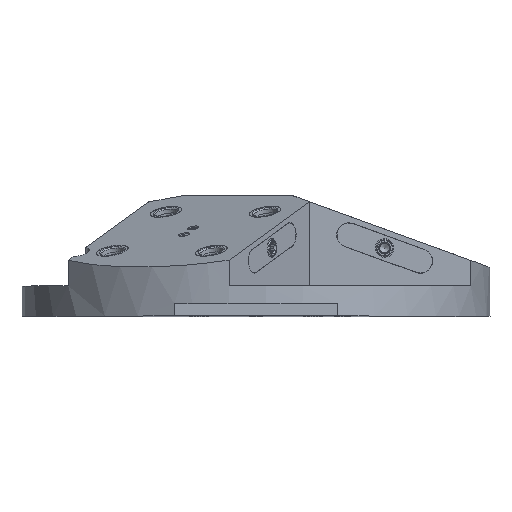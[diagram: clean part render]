
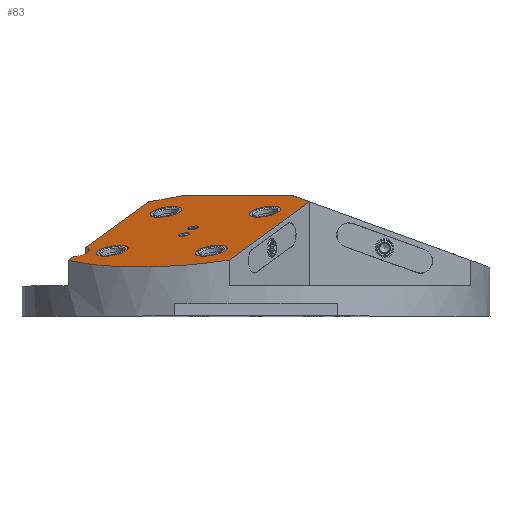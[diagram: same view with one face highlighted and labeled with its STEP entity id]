
A CAD part, top view. The second image highlights one B-rep face of the part: STEP entity #83.
In plain terms, the highlighted planar face has unit normal (-0.171, 0.94, 0.296) as drawn and (0.296, 0.171, -0.94) by its records, which use the part's own axes.
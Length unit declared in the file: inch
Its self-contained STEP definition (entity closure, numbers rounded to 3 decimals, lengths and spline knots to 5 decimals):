
#83 = ADVANCED_FACE ( 'NONE', ( #13171, #3107, #11029, #8575, #107, #6550, #10744 ), #8857, .F. ) ;
#93 = DIRECTION ( 'NONE',  ( -0.5, 0.866, 0. ) ) ;
#107 = FACE_BOUND ( 'NONE', #7468, .T. ) ;
#110 = CARTESIAN_POINT ( 'NONE',  ( -0.51257, 3.25, -2. ) ) ;
#139 = VERTEX_POINT ( 'NONE', #12270 ) ;
#250 = DIRECTION ( 'NONE',  ( 0.296, 0.171, -0.94 ) ) ;
#285 = LINE ( 'NONE', #11132, #13277 ) ;
#493 = EDGE_LOOP ( 'NONE', ( #9254, #1875, #4128, #1014, #11102, #549, #2599, #13415 ) ) ;
#549 = ORIENTED_EDGE ( 'NONE', *, *, #7306, .F. ) ;
#620 = CARTESIAN_POINT ( 'NONE',  ( 7.43534, 3.04233, 0.46745 ) ) ;
#650 = AXIS2_PLACEMENT_3D ( 'NONE', #6270, #1689, #6058 ) ;
#929 = DIRECTION ( 'NONE',  ( 0.296, 0.171, -0.94 ) ) ;
#934 = VECTOR ( 'NONE', #2036, 39.37008 ) ;
#973 = VERTEX_POINT ( 'NONE', #14015 ) ;
#989 = VERTEX_POINT ( 'NONE', #12899 ) ;
#1005 = DIRECTION ( 'NONE',  ( -0.814, -0.47, -0.342 ) ) ;
#1014 = ORIENTED_EDGE ( 'NONE', *, *, #9968, .T. ) ;
#1141 = AXIS2_PLACEMENT_3D ( 'NONE', #12490, #2644, #7011 ) ;
#1204 = CIRCLE ( 'NONE', #11081, 0.1875 ) ;
#1215 = CARTESIAN_POINT ( 'NONE',  ( 0.94214, 2.72605, -1.63682 ) ) ;
#1458 = DIRECTION ( 'NONE',  ( -0.954, 0., -0.301 ) ) ;
#1559 = ORIENTED_EDGE ( 'NONE', *, *, #8815, .F. ) ;
#1689 = DIRECTION ( 'NONE',  ( 0.296, 0.171, -0.94 ) ) ;
#1833 = CARTESIAN_POINT ( 'NONE',  ( 6.35241, 4.91803, 0.46745 ) ) ;
#1875 = ORIENTED_EDGE ( 'NONE', *, *, #3903, .T. ) ;
#1902 = AXIS2_PLACEMENT_3D ( 'NONE', #6445, #929, #1005 ) ;
#1913 = CARTESIAN_POINT ( 'NONE',  ( 1.37447, 2.97566, -1.45512 ) ) ;
#2019 = CARTESIAN_POINT ( 'NONE',  ( 6.3068, -8.5615, -2. ) ) ;
#2036 = DIRECTION ( 'NONE',  ( 0.852, -0.492, 0.179 ) ) ;
#2124 = DIRECTION ( 'NONE',  ( -0.814, -0.47, -0.342 ) ) ;
#2399 = VERTEX_POINT ( 'NONE', #5275 ) ;
#2420 = CARTESIAN_POINT ( 'NONE',  ( 3.62099, 5.63651, -0.26276 ) ) ;
#2423 = EDGE_LOOP ( 'NONE', ( #12187 ) ) ;
#2513 = VERTEX_POINT ( 'NONE', #2420 ) ;
#2529 = CARTESIAN_POINT ( 'NONE',  ( 3.59275, 2.07427, -0.91994 ) ) ;
#2547 = VERTEX_POINT ( 'NONE', #12390 ) ;
#2571 = AXIS2_PLACEMENT_3D ( 'NONE', #1913, #4262, #2124 ) ;
#2599 = ORIENTED_EDGE ( 'NONE', *, *, #3715, .T. ) ;
#2643 = CARTESIAN_POINT ( 'NONE',  ( 2.04573, -1.1811, -2. ) ) ;
#2644 = DIRECTION ( 'NONE',  ( 0.296, 0.171, -0.94 ) ) ;
#2899 = CARTESIAN_POINT ( 'NONE',  ( 4.61389, 6.20976, 0.15453 ) ) ;
#2978 = CARTESIAN_POINT ( 'NONE',  ( 7.68476, 0.89086, 0.15453 ) ) ;
#3107 = FACE_BOUND ( 'NONE', #3683, .T. ) ;
#3180 = CARTESIAN_POINT ( 'NONE',  ( 6.3068, -8.5615, -2. ) ) ;
#3318 = DIRECTION ( 'NONE',  ( -0.296, -0.171, 0.94 ) ) ;
#3471 = EDGE_CURVE ( 'NONE', #973, #2513, #4540, .T. ) ;
#3496 = VERTEX_POINT ( 'NONE', #1215 ) ;
#3683 = EDGE_LOOP ( 'NONE', ( #13756 ) ) ;
#3715 = EDGE_CURVE ( 'NONE', #13058, #12845, #8562, .T. ) ;
#3726 = DIRECTION ( 'NONE',  ( -0.814, -0.47, -0.342 ) ) ;
#3807 = EDGE_CURVE ( 'NONE', #7439, #7439, #8860, .T. ) ;
#3903 = EDGE_CURVE ( 'NONE', #2513, #13234, #5520, .T. ) ;
#3934 = CIRCLE ( 'NONE', #2571, 0.53125 ) ;
#4128 = ORIENTED_EDGE ( 'NONE', *, *, #6452, .T. ) ;
#4262 = DIRECTION ( 'NONE',  ( 0.296, 0.171, -0.94 ) ) ;
#4516 =( BOUNDED_CURVE ( )  B_SPLINE_CURVE ( 3, ( #2899, #1833, #620, #2978 ),
 .UNSPECIFIED., .F., .T. ) 
 B_SPLINE_CURVE_WITH_KNOTS ( ( 4, 4 ),
 ( 5.875, 6.69137 ),
 .UNSPECIFIED. ) 
 CURVE ( )  GEOMETRIC_REPRESENTATION_ITEM ( )  RATIONAL_B_SPLINE_CURVE ( ( 1., 0.945, 0.945, 1. ) ) 
 REPRESENTATION_ITEM ( '' )  );
#4540 = LINE ( 'NONE', #110, #6312 ) ;
#4710 = VERTEX_POINT ( 'NONE', #8673 ) ;
#4805 = ORIENTED_EDGE ( 'NONE', *, *, #3807, .F. ) ;
#4855 = EDGE_CURVE ( 'NONE', #4710, #7583, #285, .T. ) ;
#5247 = LINE ( 'NONE', #6328, #934 ) ;
#5275 = CARTESIAN_POINT ( 'NONE',  ( 4.61389, 6.20976, 0.15453 ) ) ;
#5520 =( BOUNDED_CURVE ( )  B_SPLINE_CURVE ( 3, ( #8172, #6234, #5946, #10366 ),
 .UNSPECIFIED., .F., .T. ) 
 B_SPLINE_CURVE_WITH_KNOTS ( ( 4, 4 ),
 ( 0.18161, 2.95999 ),
 .UNSPECIFIED. ) 
 CURVE ( )  GEOMETRIC_REPRESENTATION_ITEM ( )  RATIONAL_B_SPLINE_CURVE ( ( 1., 0.454, 0.454, 1. ) ) 
 REPRESENTATION_ITEM ( '' )  );
#5538 = DIRECTION ( 'NONE',  ( 0.954, 0., 0.301 ) ) ;
#5638 = EDGE_CURVE ( 'NONE', #3496, #3496, #3934, .T. ) ;
#5731 = VECTOR ( 'NONE', #14173, 39.37008 ) ;
#5946 = CARTESIAN_POINT ( 'NONE',  ( 4.5291, 5.4797, -0.00506 ) ) ;
#6058 = DIRECTION ( 'NONE',  ( -0.814, -0.47, -0.342 ) ) ;
#6234 = CARTESIAN_POINT ( 'NONE',  ( 4.00973, 5.17984, -0.22334 ) ) ;
#6256 = EDGE_CURVE ( 'NONE', #139, #139, #1204, .T. ) ;
#6270 = CARTESIAN_POINT ( 'NONE',  ( 4.45024, 4.75146, -0.16244 ) ) ;
#6290 = CARTESIAN_POINT ( 'NONE',  ( 5.90767, 1.22868, -0.34414 ) ) ;
#6312 = VECTOR ( 'NONE', #13106, 39.37008 ) ;
#6328 = CARTESIAN_POINT ( 'NONE',  ( -5.05555, 2.91882, -3.49225 ) ) ;
#6445 = CARTESIAN_POINT ( 'NONE',  ( 3.26423, -0.29751, -1.45512 ) ) ;
#6452 = EDGE_CURVE ( 'NONE', #13234, #2399, #10874, .T. ) ;
#6550 = FACE_BOUND ( 'NONE', #8026, .T. ) ;
#7011 = DIRECTION ( 'NONE',  ( -0.954, 0., -0.301 ) ) ;
#7191 = EDGE_LOOP ( 'NONE', ( #1559 ) ) ;
#7306 = EDGE_CURVE ( 'NONE', #13058, #4710, #5247, .T. ) ;
#7439 = VERTEX_POINT ( 'NONE', #6290 ) ;
#7468 = EDGE_LOOP ( 'NONE', ( #4805 ) ) ;
#7583 = VERTEX_POINT ( 'NONE', #8121 ) ;
#7882 = DIRECTION ( 'NONE',  ( 0., -0.984, -0.179 ) ) ;
#8018 = LINE ( 'NONE', #12406, #9664 ) ;
#8026 = EDGE_LOOP ( 'NONE', ( #12411 ) ) ;
#8029 = EDGE_CURVE ( 'NONE', #973, #12845, #8018, .T. ) ;
#8076 = EDGE_LOOP ( 'NONE', ( #10697 ) ) ;
#8121 = CARTESIAN_POINT ( 'NONE',  ( 7.68476, 0.89086, 0.15453 ) ) ;
#8172 = CARTESIAN_POINT ( 'NONE',  ( 3.62099, 5.63651, -0.26276 ) ) ;
#8203 = CIRCLE ( 'NONE', #650, 0.53125 ) ;
#8233 = CIRCLE ( 'NONE', #1141, 0.1875 ) ;
#8316 = CARTESIAN_POINT ( 'NONE',  ( 6.34, 1.47829, -0.16244 ) ) ;
#8381 = AXIS2_PLACEMENT_3D ( 'NONE', #8316, #9415, #3726 ) ;
#8562 = LINE ( 'NONE', #2019, #11612 ) ;
#8575 = FACE_BOUND ( 'NONE', #8076, .T. ) ;
#8673 = CARTESIAN_POINT ( 'NONE',  ( 3.07087, -1.77297, -1.78458 ) ) ;
#8793 = CARTESIAN_POINT ( 'NONE',  ( 0., 2.3622, -2. ) ) ;
#8815 = EDGE_CURVE ( 'NONE', #989, #989, #14071, .T. ) ;
#8857 = PLANE ( 'NONE',  #11287 ) ;
#8860 = CIRCLE ( 'NONE', #8381, 0.53125 ) ;
#9254 = ORIENTED_EDGE ( 'NONE', *, *, #3471, .T. ) ;
#9415 = DIRECTION ( 'NONE',  ( 0.296, 0.171, -0.94 ) ) ;
#9559 = CARTESIAN_POINT ( 'NONE',  ( -0.51257, 3.25, -2. ) ) ;
#9664 = VECTOR ( 'NONE', #7882, 39.37008 ) ;
#9777 = CARTESIAN_POINT ( 'NONE',  ( 4.32797, 6.04469, 0.03437 ) ) ;
#9968 = EDGE_CURVE ( 'NONE', #2399, #7583, #4516, .T. ) ;
#10104 = CARTESIAN_POINT ( 'NONE',  ( 4.01791, 4.50185, -0.34414 ) ) ;
#10366 = CARTESIAN_POINT ( 'NONE',  ( 4.32797, 6.04469, 0.03437 ) ) ;
#10697 = ORIENTED_EDGE ( 'NONE', *, *, #5638, .F. ) ;
#10744 = FACE_OUTER_BOUND ( 'NONE', #493, .T. ) ;
#10874 = LINE ( 'NONE', #9559, #5731 ) ;
#11029 = FACE_BOUND ( 'NONE', #7191, .T. ) ;
#11081 = AXIS2_PLACEMENT_3D ( 'NONE', #2529, #250, #1458 ) ;
#11102 = ORIENTED_EDGE ( 'NONE', *, *, #4855, .F. ) ;
#11132 = CARTESIAN_POINT ( 'NONE',  ( 3.84591, -1.32549, -1.45885 ) ) ;
#11148 = EDGE_CURVE ( 'NONE', #13117, #13117, #8203, .T. ) ;
#11287 = AXIS2_PLACEMENT_3D ( 'NONE', #3180, #3318, #5538 ) ;
#11612 = VECTOR ( 'NONE', #93, 39.37008 ) ;
#12187 = ORIENTED_EDGE ( 'NONE', *, *, #6256, .F. ) ;
#12270 = CARTESIAN_POINT ( 'NONE',  ( 3.41392, 2.07427, -0.97631 ) ) ;
#12332 = DIRECTION ( 'NONE',  ( 0.814, 0.47, 0.342 ) ) ;
#12390 = CARTESIAN_POINT ( 'NONE',  ( 3.94289, 2.37967, -0.75399 ) ) ;
#12406 = CARTESIAN_POINT ( 'NONE',  ( 0., 9.50601, -0.69993 ) ) ;
#12411 = ORIENTED_EDGE ( 'NONE', *, *, #11148, .F. ) ;
#12490 = CARTESIAN_POINT ( 'NONE',  ( 4.12172, 2.37967, -0.69762 ) ) ;
#12513 = EDGE_CURVE ( 'NONE', #2547, #2547, #8233, .T. ) ;
#12845 = VERTEX_POINT ( 'NONE', #8793 ) ;
#12899 = CARTESIAN_POINT ( 'NONE',  ( 2.8319, -0.54711, -1.63682 ) ) ;
#13058 = VERTEX_POINT ( 'NONE', #2643 ) ;
#13106 = DIRECTION ( 'NONE',  ( 0.814, 0.47, 0.342 ) ) ;
#13117 = VERTEX_POINT ( 'NONE', #10104 ) ;
#13171 = FACE_BOUND ( 'NONE', #2423, .T. ) ;
#13234 = VERTEX_POINT ( 'NONE', #9777 ) ;
#13277 = VECTOR ( 'NONE', #12332, 39.37008 ) ;
#13415 = ORIENTED_EDGE ( 'NONE', *, *, #8029, .F. ) ;
#13756 = ORIENTED_EDGE ( 'NONE', *, *, #12513, .F. ) ;
#14015 = CARTESIAN_POINT ( 'NONE',  ( 0., 3.54593, -1.78458 ) ) ;
#14071 = CIRCLE ( 'NONE', #1902, 0.53125 ) ;
#14173 = DIRECTION ( 'NONE',  ( 0.814, 0.47, 0.342 ) ) ;
